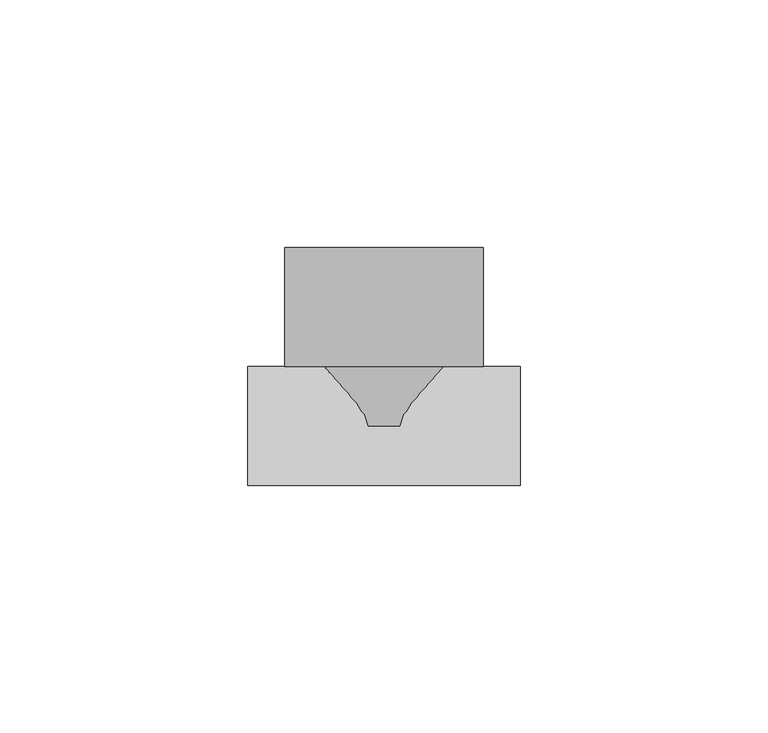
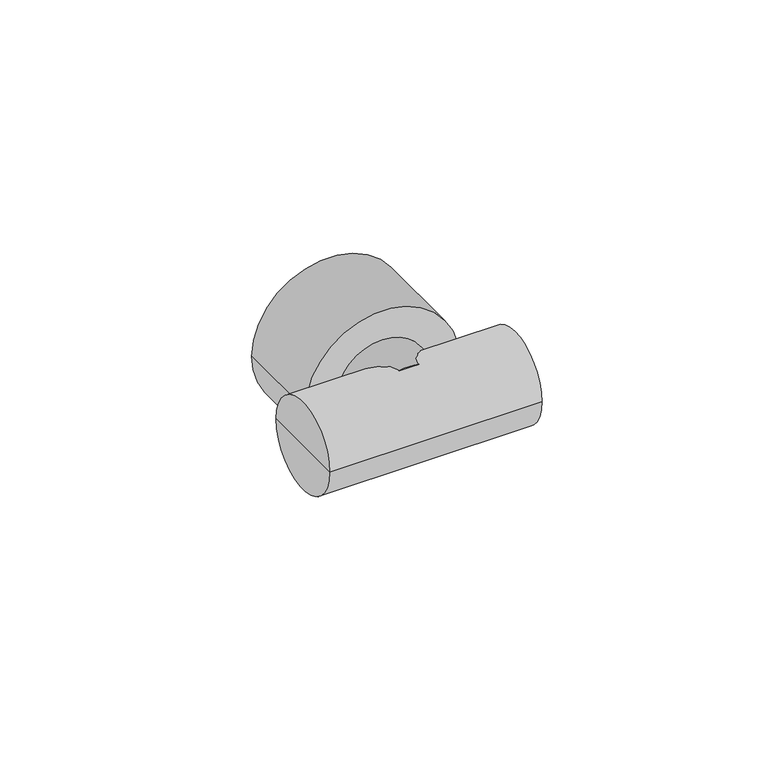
"""IFC4 building model written with IfcOpenShell, lengths in millimetres: pipe fitting geometry, KAN-therm PP trojnik gw 1_2 : KAN-therm PP trojnik gw 1_2."""

from ifc_helpers import new_model, si_unit, frame, origin, place, context, project, spatial, circle_curve, source, transform, mapped, element, save
from ifc_brep_helpers import plane_surface, cylinder_surface, advanced_brep


def pipe_fitting_e2bcef58(model_context):
    return source(origin(), model_context, "Body", "AdvancedBrep", [
        advanced_brep(
        [(-20.0, 36.0, 0.0), (20.0, 36.0, 0.0), (20.0, 12.0, 0.0), (-20.0, 12.0, 0.0), (0.0, 36.0, 0.0), (-12.0, 0.0, 0.0), (12.0, 0.0, 0.0), (0.0, 0.0, 0.0), (-12.0, 12.0, 0.0), (12.0, 12.0, 0.0)],
        [
            (0, 1, circle_curve(frame((0.0, 36.0, 0.0), z_axis=(0.0, -1.0, 0.0), x_axis=(1.0, 0.0, 0.0)), 20.0)),
            (1, 2),
            (2, 3, circle_curve(frame((0.0, 12.0, 0.0), z_axis=(0.0, 1.0, 0.0), x_axis=(1.0, 0.0, 0.0)), 20.0)),
            (3, 0),
            (1, 0, circle_curve(frame((0.0, 36.0, 0.0), z_axis=(0.0, -1.0, 0.0), x_axis=(1.0, 0.0, 0.0)), 20.0)),
            (3, 2, circle_curve(frame((0.0, 12.0, 0.0), z_axis=(0.0, 1.0, 0.0), x_axis=(1.0, 0.0, 0.0)), 20.0)),
            (4, 1),
            (0, 4),
            (5, 6, circle_curve(frame((0.0, 0.0, 0.0), z_axis=(0.0, -1.0, 0.0), x_axis=(1.0, 0.0, 0.0)), 12.0)),
            (6, 7),
            (7, 5),
            (6, 5, circle_curve(frame((0.0, 0.0, 0.0), z_axis=(0.0, -1.0, 0.0), x_axis=(1.0, 0.0, 0.0)), 12.0)),
            (8, 9, circle_curve(frame((0.0, 12.0, 0.0), z_axis=(0.0, -1.0, 0.0), x_axis=(1.0, 0.0, 0.0)), 12.0)),
            (9, 6),
            (5, 8),
            (9, 8, circle_curve(frame((0.0, 12.0, 0.0), z_axis=(0.0, -1.0, 0.0), x_axis=(1.0, 0.0, 0.0)), 12.0)),
            (2, 9),
            (8, 3),
        ],
        [
            cylinder_surface(frame((0.0, 2009.0, 0.0), z_axis=(0.0, 1.0, 0.0), x_axis=(1.0, 0.0, 0.0)), 20.0),
            plane_surface(frame((0.0, 36.0, 0.0), z_axis=(0.0, 1.0, 0.0), x_axis=(1.0, 0.0, 0.0))),
            plane_surface(frame((0.0, 0.0, 0.0), z_axis=(0.0, -1.0, 0.0), x_axis=(1.0, 0.0, 0.0))),
            cylinder_surface(frame((0.0, 2009.0, 0.0), z_axis=(0.0, 1.0, 0.0), x_axis=(1.0, 0.0, 0.0)), 12.0),
            plane_surface(frame((0.0, 12.0, 0.0), z_axis=(0.0, -1.0, 0.0), x_axis=(1.0, 0.0, 0.0))),
        ],
        [
            (0, [[1, 2, 3, 4]]),
            (0, [[5, -4, 6, -2]]),
            (1, [[7, -1, 8]]),
            (1, [[-8, -5, -7]]),
            (2, [[9, 10, 11]]),
            (2, [[12, -11, -10]]),
            (3, [[13, 14, -9, 15]]),
            (3, [[16, -15, -12, -14]]),
            (4, [[-3, 17, -13, 18]]),
            (4, [[-6, -18, -16, -17]]),
        ],
    ),
        advanced_brep(
        [(27.5, 0.0, 0.0), (27.5, -12.0, 0.0), (27.5, 12.0, 0.0), (-27.5, 12.0, 0.0), (-27.5, -12.0, 0.0), (-27.5, 0.0, 0.0)],
        [
            (0, 1),
            (1, 2, circle_curve(frame((27.5, 0.0, 0.0), z_axis=(1.0, 0.0, 0.0), x_axis=(0.0, -1.0, 0.0)), 12.0)),
            (2, 0),
            (2, 1, circle_curve(frame((27.5, 0.0, 0.0), z_axis=(1.0, 0.0, 0.0), x_axis=(0.0, -1.0, 0.0)), 12.0)),
            (3, 4, circle_curve(frame((-27.5, 0.0, 0.0), z_axis=(-1.0, 0.0, 0.0), x_axis=(0.0, -1.0, 0.0)), 12.0)),
            (4, 5),
            (5, 3),
            (4, 3, circle_curve(frame((-27.5, 0.0, 0.0), z_axis=(-1.0, 0.0, 0.0), x_axis=(0.0, -1.0, 0.0)), 12.0)),
            (1, 4),
            (3, 2),
        ],
        [
            plane_surface(frame((27.5, 0.0, 0.0), z_axis=(1.0, 0.0, 0.0), x_axis=(0.0, -1.0, 0.0))),
            plane_surface(frame((-27.5, 0.0, 0.0), z_axis=(-1.0, 0.0, 0.0), x_axis=(0.0, -1.0, 0.0))),
            cylinder_surface(frame((2000.0, 0.0, 0.0), z_axis=(1.0, 0.0, 0.0), x_axis=(0.0, -1.0, 0.0)), 12.0),
        ],
        [
            (0, [[1, 2, 3]]),
            (0, [[-3, 4, -1]]),
            (1, [[5, 6, 7]]),
            (1, [[8, -7, -6]]),
            (2, [[-2, 9, -5, 10]]),
            (2, [[-4, -10, -8, -9]]),
        ],
    ),
    ])


if __name__ == "__main__":
    model = new_model("IFC4")
    model_context = context("Model", 3, world=origin())
    ifc_project = project(units=[si_unit("LENGTHUNIT", "METRE", prefix="MILLI")], contexts=[model_context])
    site = spatial("IfcSite", under=ifc_project)
    building = spatial("IfcBuilding", under=site)
    placement = place(None, origin())
    pipe_fitting_shape = pipe_fitting_e2bcef58(model_context)
    element("IfcPipeFitting", 1, ObjectType="KAN-therm PP trojnik gw 1_2 : KAN-therm PP trojnik gw 1_2", at=placement, inside=building, context=model_context, shape_type="MappedRepresentation", body=[
        mapped(pipe_fitting_shape, transform((0.0, 0.0, 0.0), x_axis=(1.0, 0.0, 0.0), y_axis=(0.0, 1.0, 0.0), z_axis=(0.0, 0.0, 1.0))),
    ])
    save(model, "model.ifc")
